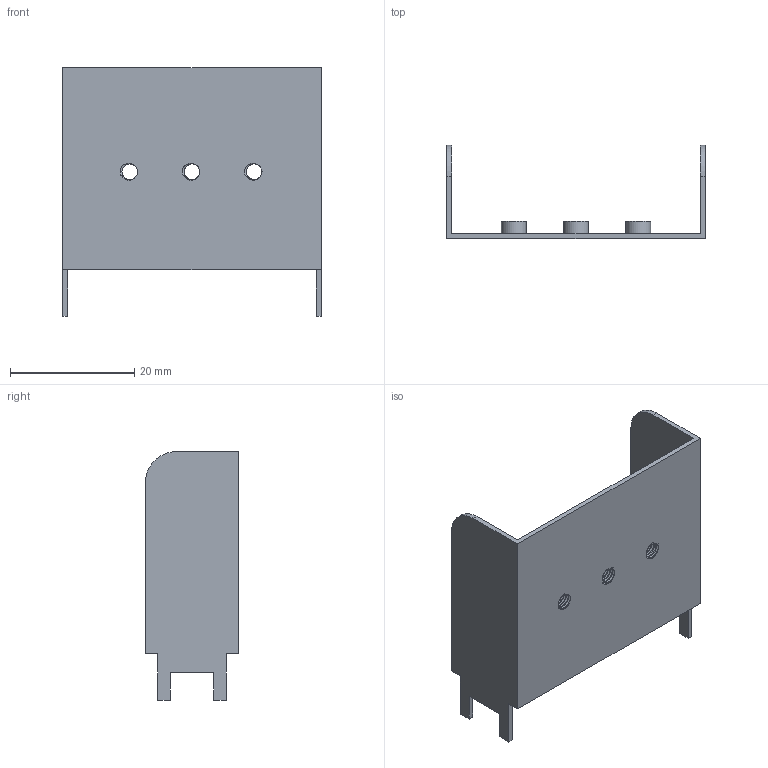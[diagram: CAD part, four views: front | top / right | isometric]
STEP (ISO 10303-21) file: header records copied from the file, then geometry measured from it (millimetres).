
FILE_DESCRIPTION(/* description */ ('','CAx-IF Rec.Pracs.---Representation and Presentation of Product Manufacturing Information (PMI)---4.0---2014-10-13'),/* implementation_level */ '2;1');
FILE_NAME(/* name */ 'TypeD-1-0.8.step',/* time_stamp */ '2025-01-27T02:28:02+09:00',/* author */ (''),/* organization */ (''),/* preprocessor_version */ 'ST-DEVELOPER v20',/* originating_system */ 'Autodesk Translation Framework v13.20.0.188',/* authorisation */ '');
FILE_SCHEMA (('AP242_MANAGED_MODEL_BASED_3D_ENGINEERING_MIM_LF { 1 0 10303 442 1 1 4 }'));
Length unit declared in the file: millimetre
Products named in the file (1): (未保存)
Bounding box: 41.6 x 15 x 40 mm (x, y, z)
Volume: 1918.1 mm3; surface area: 5091.4 mm2
Topology: 1 solids, 1 shells, 85 faces, 240 edges, 160 vertices
Faces by surface type: cylinder 44, plane 29, bspline 12
Full cylindrical faces by diameter (mm): 2.529 x12, 3.086 x15, 4 x3
Entity records: 6175 total; most frequent: CARTESIAN_POINT 4152, ORIENTED_EDGE 480, DIRECTION 302, EDGE_CURVE 240, VERTEX_POINT 160, LINE 110, VECTOR 110, B_SPLINE_CURVE_WITH_KNOTS 108
